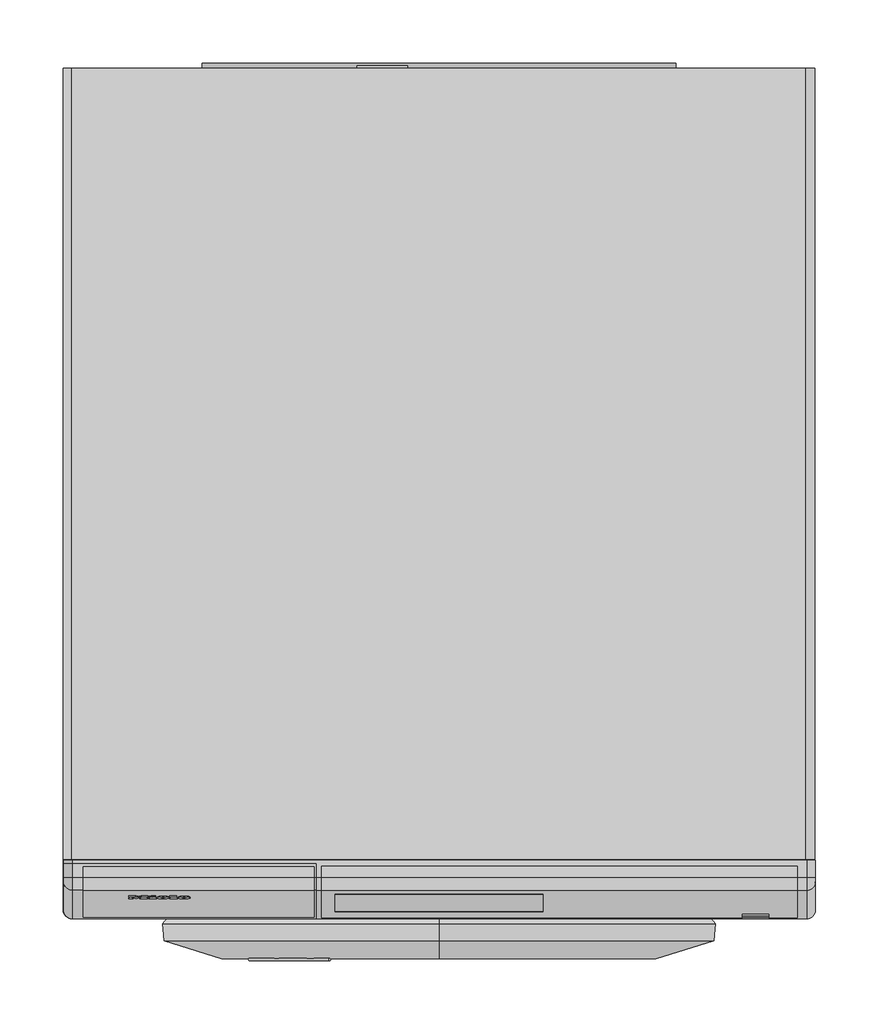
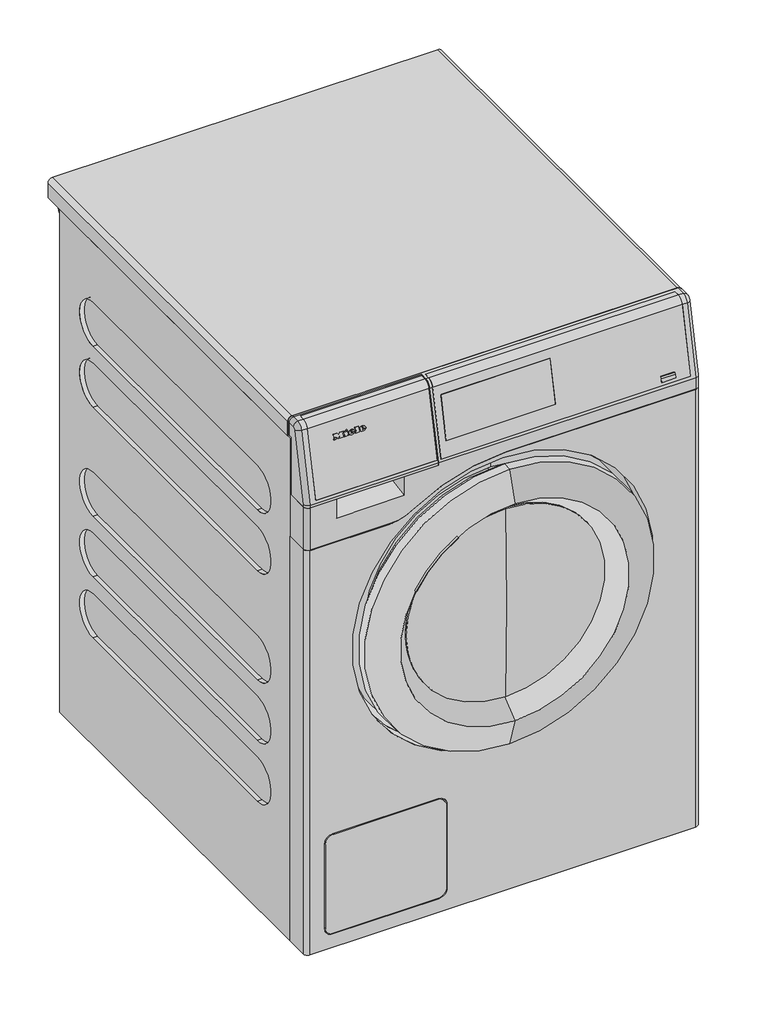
# Not in any storey: 1 proxy.
"""IFC4 building model written with IfcOpenShell, lengths in millimetres."""

from ifc_helpers import new_model, si_unit, origin, place, context, project, spatial, transform, mapped, element, save
from components import specialty_equipment_5f2c54f2, specialty_equipment_d8dd58c1, specialty_equipment_5b245b4f

model = new_model("IFC4")

# Units and contexts
model_context = context("Model", 3, world=origin())
ifc_project = project(units=[si_unit("LENGTHUNIT", "METRE", prefix="MILLI")], contexts=[model_context])

# Site, building
site = spatial("IfcSite", under=ifc_project)
building = spatial("IfcBuilding", under=site)

# Proxy
placement = place(None, origin())
specialty_equipment_shape = specialty_equipment_5f2c54f2(model_context)
specialty_equipment_2_shape = specialty_equipment_d8dd58c1(model_context)
specialty_equipment_3_shape = specialty_equipment_5b245b4f(model_context)
element("IfcBuildingElementProxy", 1, Name="11073260_S_PWM907DV_LW : 51907252_S_11073260_PWM907DV_LW", ObjectType="11073260_S_PWM907DV_LW : 51907252_S_11073260_PWM907DV_LW", at=placement, inside=building, context=model_context, shape_type="MappedRepresentation", body=[
    mapped(specialty_equipment_shape, transform((0.0, 0.0, 0.0), x_axis=(1.0, 0.0, 0.0), y_axis=(0.0, 1.0, 0.0), z_axis=(0.0, 0.0, 1.0))),
    mapped(specialty_equipment_2_shape, transform((0.0, 0.0, 0.0), x_axis=(1.0, 0.0, 0.0), y_axis=(0.0, 1.0, 0.0), z_axis=(0.0, 0.0, 1.0))),
    mapped(specialty_equipment_3_shape, transform((0.0, 0.0, 0.0), x_axis=(1.0, 0.0, 0.0), y_axis=(0.0, 1.0, 0.0), z_axis=(0.0, 0.0, 1.0))),
])

save(model, "model.ifc")
